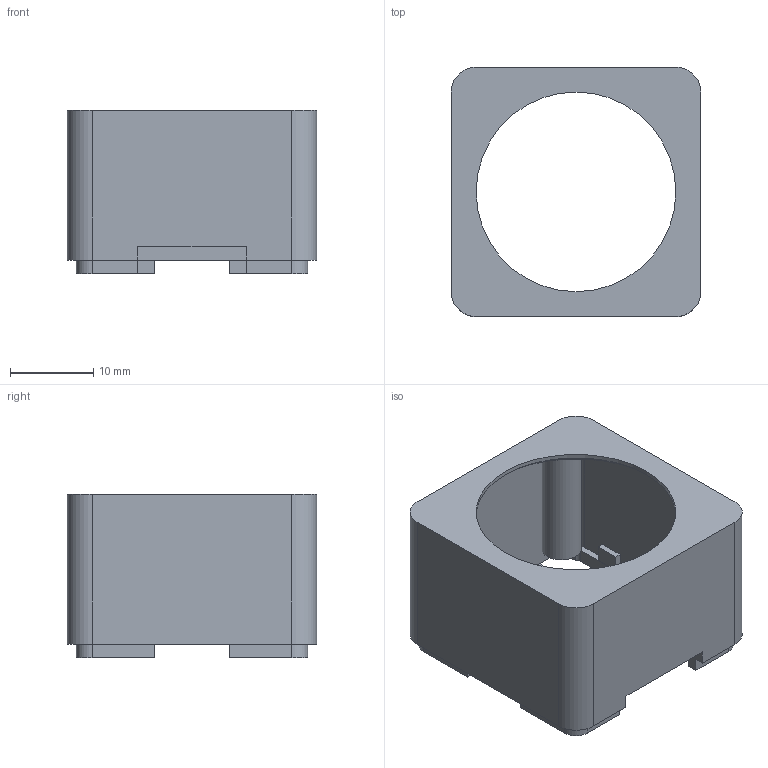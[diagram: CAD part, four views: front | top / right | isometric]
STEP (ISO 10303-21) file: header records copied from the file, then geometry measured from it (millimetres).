
FILE_DESCRIPTION(('FreeCAD Model'),'2;1');
FILE_NAME('Open CASCADE Shape Model','2026-09-05T20:39:50',('FreeCAD'),( 'FreeCAD'),'Open CASCADE STEP processor 7.8','FreeCAD','Unknown');
FILE_SCHEMA(('AUTOMOTIVE_DESIGN { 1 0 10303 214 1 1 1 1 }'));
Length unit declared in the file: millimetre
Products named in the file (1): Open CASCADE STEP translator 7.8 2
Bounding box: 30 x 30 x 19.6 mm (x, y, z)
Volume: 3804.7 mm3; surface area: 5294.2 mm2
Topology: 1 solids, 1 shells, 105 faces, 304 edges, 204 vertices
Faces by surface type: plane 79, cylinder 26
Full cylindrical faces by diameter (mm): 1.7 x2, 24 x1, 26.4 x1
Entity records: 3466 total; most frequent: CARTESIAN_POINT 614, ORIENTED_EDGE 608, DIRECTION 578, EDGE_CURVE 304, LINE 242, VECTOR 242, VERTEX_POINT 204, AXIS2_PLACEMENT_3D 168
